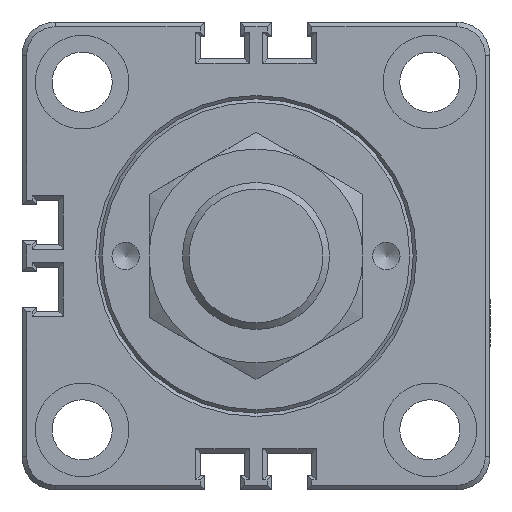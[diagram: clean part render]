
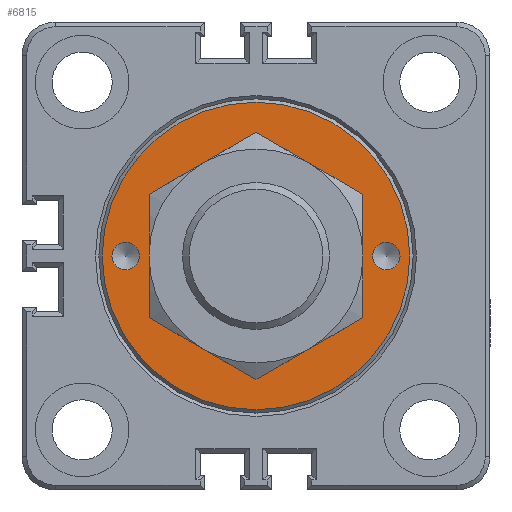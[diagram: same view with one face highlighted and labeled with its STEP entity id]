
A CAD part, front view. The second image highlights one B-rep face of the part: STEP entity #6815.
In plain terms, the highlighted planar face has unit normal (0, -1, 0).
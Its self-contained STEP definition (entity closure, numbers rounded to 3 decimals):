
#987=PLANE('',#7205);
#1207=CIRCLE('',#7202,23.);
#1208=CIRCLE('',#7204,12.5);
#1209=CIRCLE('',#7206,2.05);
#1210=CIRCLE('',#7207,2.05);
#2044=ORIENTED_EDGE('',*,*,#3053,.T.);
#2045=ORIENTED_EDGE('',*,*,#3052,.F.);
#2046=ORIENTED_EDGE('',*,*,#3054,.T.);
#2047=ORIENTED_EDGE('',*,*,#3051,.T.);
#3051=EDGE_CURVE('',#3569,#3569,#1207,.T.);
#3052=EDGE_CURVE('',#3570,#3570,#1208,.T.);
#3053=EDGE_CURVE('',#3571,#3571,#1209,.T.);
#3054=EDGE_CURVE('',#3572,#3572,#1210,.T.);
#3569=VERTEX_POINT('',#10405);
#3570=VERTEX_POINT('',#10408);
#3571=VERTEX_POINT('',#10411);
#3572=VERTEX_POINT('',#10413);
#3935=EDGE_LOOP('',(#2044));
#3936=EDGE_LOOP('',(#2045));
#3937=EDGE_LOOP('',(#2046));
#3938=EDGE_LOOP('',(#2047));
#4305=FACE_BOUND('',#3935,.T.);
#4306=FACE_BOUND('',#3936,.T.);
#4307=FACE_BOUND('',#3937,.T.);
#4308=FACE_BOUND('',#3938,.T.);
#6815=ADVANCED_FACE('',(#4305,#4306,#4307,#4308),#987,.T.);
#7202=AXIS2_PLACEMENT_3D('',#10404,#8151,#8152);
#7204=AXIS2_PLACEMENT_3D('',#10407,#8155,#8156);
#7205=AXIS2_PLACEMENT_3D('',#10409,#8157,#8158);
#7206=AXIS2_PLACEMENT_3D('',#10410,#8159,#8160);
#7207=AXIS2_PLACEMENT_3D('',#10412,#8161,#8162);
#8151=DIRECTION('',(0.,-1.,0.));
#8152=DIRECTION('',(0.,0.,-1.));
#8155=DIRECTION('',(0.,-1.,0.));
#8156=DIRECTION('',(1.,0.,0.));
#8157=DIRECTION('',(0.,-1.,0.));
#8158=DIRECTION('',(1.,0.,0.));
#8159=DIRECTION('',(0.,1.,0.));
#8160=DIRECTION('',(0.,0.,-1.));
#8161=DIRECTION('',(0.,1.,0.));
#8162=DIRECTION('',(0.,0.,-1.));
#10404=CARTESIAN_POINT('',(0.,0.,0.));
#10405=CARTESIAN_POINT('',(0.,0.,-23.));
#10407=CARTESIAN_POINT('',(0.,0.,0.));
#10408=CARTESIAN_POINT('',(12.5,0.,0.));
#10409=CARTESIAN_POINT('',(-30.,0.,30.));
#10410=CARTESIAN_POINT('',(19.5,0.,0.));
#10411=CARTESIAN_POINT('',(19.5,0.,-2.05));
#10412=CARTESIAN_POINT('',(-19.5,0.,0.));
#10413=CARTESIAN_POINT('',(-19.5,0.,-2.05));
